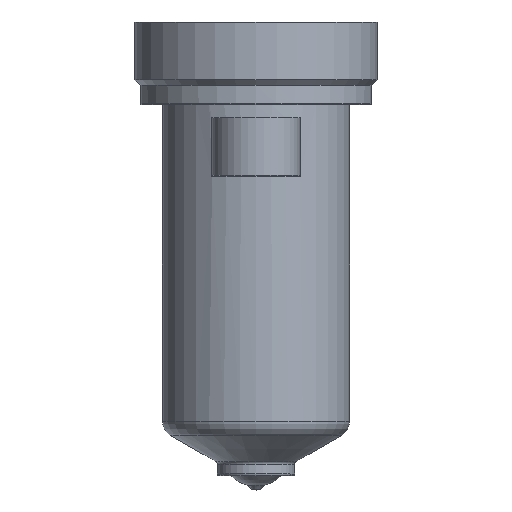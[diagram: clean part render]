
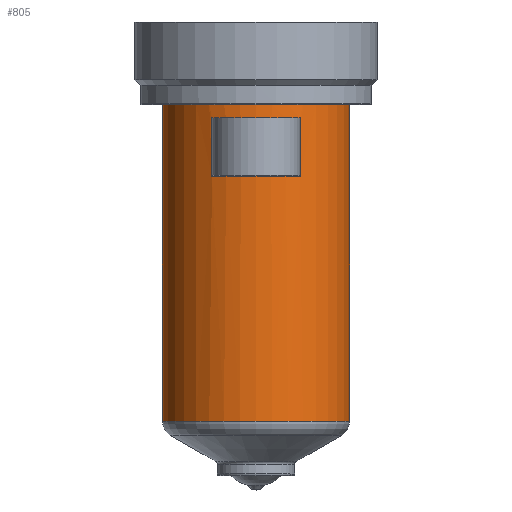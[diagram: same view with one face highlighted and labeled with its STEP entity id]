
A CAD part, top view. The second image highlights one B-rep face of the part: STEP entity #805.
In plain terms, the highlighted cylindrical face has radius 17 mm (diameter 34 mm), a partial arc.
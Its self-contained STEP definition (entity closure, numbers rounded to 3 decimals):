
#191=DIRECTION('',(0.,-1.,0.));
#192=VECTOR('',#191,57.506);
#193=CARTESIAN_POINT('',(17.,0.,0.));
#194=LINE('',#193,#192);
#195=CARTESIAN_POINT('',(0.,-57.506,0.));
#196=DIRECTION('',(0.,1.,0.));
#197=DIRECTION('',(-1.,0.,0.));
#198=AXIS2_PLACEMENT_3D('',#195,#196,#197);
#200=DIRECTION('',(0.,1.,0.));
#201=VECTOR('',#200,57.506);
#202=CARTESIAN_POINT('',(-17.,-57.506,0.));
#203=LINE('',#202,#201);
#204=CARTESIAN_POINT('',(0.,0.,0.));
#205=DIRECTION('',(0.,1.,0.));
#206=DIRECTION('',(-1.,0.,0.));
#207=AXIS2_PLACEMENT_3D('',#204,#205,#206);
#371=DIRECTION('',(0.,1.,0.));
#372=VECTOR('',#371,10.5);
#373=CARTESIAN_POINT('',(-8.,-13.,15.));
#374=LINE('',#373,#372);
#375=CARTESIAN_POINT('',(0.,-13.,0.));
#376=DIRECTION('',(0.,1.,0.));
#377=DIRECTION('',(-0.471,0.,0.882));
#378=AXIS2_PLACEMENT_3D('',#375,#376,#377);
#401=CARTESIAN_POINT('',(0.,-2.5,0.));
#402=DIRECTION('',(0.,-1.,0.));
#403=DIRECTION('',(0.471,0.,0.882));
#404=AXIS2_PLACEMENT_3D('',#401,#402,#403);
#419=DIRECTION('',(0.,1.,0.));
#420=VECTOR('',#419,10.5);
#421=CARTESIAN_POINT('',(8.,-13.,15.));
#422=LINE('',#421,#420);
#480=CARTESIAN_POINT('',(-17.,0.,0.));
#481=CARTESIAN_POINT('',(17.,0.,0.));
#482=VERTEX_POINT('',#480);
#483=VERTEX_POINT('',#481);
#492=CARTESIAN_POINT('',(-8.,-2.5,15.));
#493=VERTEX_POINT('',#492);
#494=CARTESIAN_POINT('',(8.,-2.5,15.));
#495=VERTEX_POINT('',#494);
#532=CARTESIAN_POINT('',(17.,-57.506,0.));
#533=VERTEX_POINT('',#532);
#542=CARTESIAN_POINT('',(-17.,-57.506,0.));
#543=VERTEX_POINT('',#542);
#564=CARTESIAN_POINT('',(-8.,-13.,15.));
#565=CARTESIAN_POINT('',(8.,-13.,15.));
#566=VERTEX_POINT('',#564);
#567=VERTEX_POINT('',#565);
#783=CARTESIAN_POINT('',(0.,16.4,0.));
#784=DIRECTION('',(0.,-1.,0.));
#785=DIRECTION('',(-1.,0.,0.));
#786=AXIS2_PLACEMENT_3D('',#783,#784,#785);
#787=CYLINDRICAL_SURFACE('',#786,17.);
#788=ORIENTED_EDGE('',*,*,#777,.T.);
#790=ORIENTED_EDGE('',*,*,#789,.F.);
#791=ORIENTED_EDGE('',*,*,#773,.T.);
#792=ORIENTED_EDGE('',*,*,#763,.T.);
#793=EDGE_LOOP('',(#788,#790,#791,#792));
#794=FACE_OUTER_BOUND('',#793,.F.);
#796=ORIENTED_EDGE('',*,*,#795,.F.);
#798=ORIENTED_EDGE('',*,*,#797,.T.);
#800=ORIENTED_EDGE('',*,*,#799,.T.);
#802=ORIENTED_EDGE('',*,*,#801,.T.);
#803=EDGE_LOOP('',(#796,#798,#800,#802));
#804=FACE_BOUND('',#803,.F.);
#805=ADVANCED_FACE('',(#794,#804),#787,.T.);
#199=CIRCLE('',#198,17.);
#208=CIRCLE('',#207,17.);
#379=CIRCLE('',#378,17.);
#405=CIRCLE('',#404,17.);
#763=EDGE_CURVE('',#482,#483,#208,.T.);
#773=EDGE_CURVE('',#543,#482,#203,.T.);
#777=EDGE_CURVE('',#483,#533,#194,.T.);
#789=EDGE_CURVE('',#543,#533,#199,.T.);
#795=EDGE_CURVE('',#566,#493,#374,.T.);
#797=EDGE_CURVE('',#566,#567,#379,.T.);
#799=EDGE_CURVE('',#567,#495,#422,.T.);
#801=EDGE_CURVE('',#495,#493,#405,.T.);
